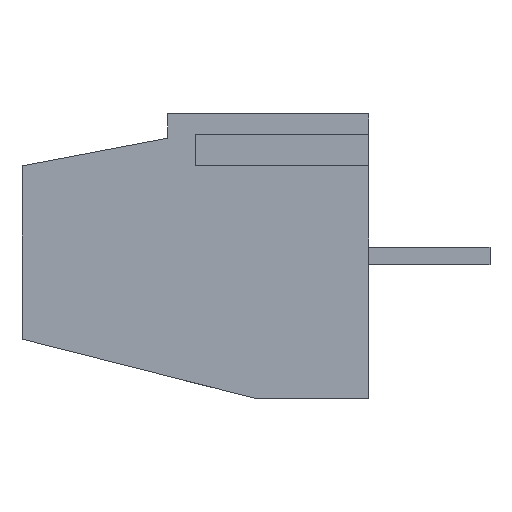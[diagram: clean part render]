
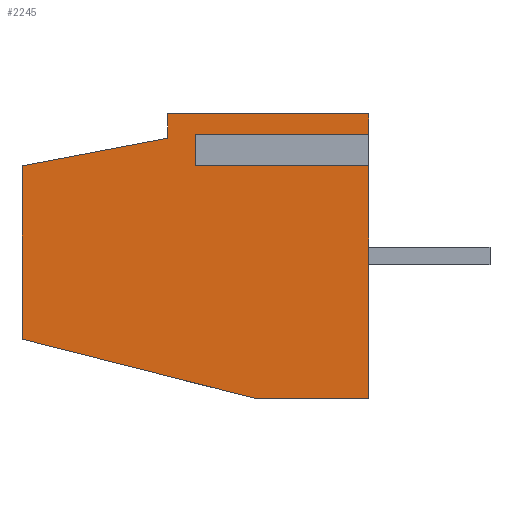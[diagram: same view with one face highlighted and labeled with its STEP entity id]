
A CAD part, left-side view. The second image highlights one B-rep face of the part: STEP entity #2245.
In plain terms, the highlighted planar face has unit normal (-1, 0, 0).
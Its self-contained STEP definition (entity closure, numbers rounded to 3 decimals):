
#25 = EDGE_CURVE ( 'NONE', #1675, #912, #2807, .T. ) ;
#79 = VERTEX_POINT ( 'NONE', #4531 ) ;
#146 = VECTOR ( 'NONE', #2185, 1000. ) ;
#165 = AXIS2_PLACEMENT_3D ( 'NONE', #3384, #2246, #4577 ) ;
#184 = LINE ( 'NONE', #1041, #4806 ) ;
#242 = CARTESIAN_POINT ( 'NONE',  ( -12.5, 5.8, 3.4 ) ) ;
#404 = ORIENTED_EDGE ( 'NONE', *, *, #1332, .F. ) ;
#478 = DIRECTION ( 'NONE',  ( 0., 0., -1. ) ) ;
#482 = VECTOR ( 'NONE', #3685, 1000. ) ;
#560 = LINE ( 'NONE', #242, #3721 ) ;
#630 = CARTESIAN_POINT ( 'NONE',  ( -12.5, 5.8, 4.1 ) ) ;
#635 = DIRECTION ( 'NONE',  ( 0., 1., 0. ) ) ;
#655 = CARTESIAN_POINT ( 'NONE',  ( -12.5, 0., -4.1 ) ) ;
#685 = ORIENTED_EDGE ( 'NONE', *, *, #2791, .T. ) ;
#702 = EDGE_CURVE ( 'NONE', #1218, #79, #4548, .T. ) ;
#753 = CARTESIAN_POINT ( 'NONE',  ( -12.5, 5., 3.3 ) ) ;
#796 = CARTESIAN_POINT ( 'NONE',  ( -12.5, 5., 2.8 ) ) ;
#832 = VERTEX_POINT ( 'NONE', #655 ) ;
#912 = VERTEX_POINT ( 'NONE', #753 ) ;
#953 = LINE ( 'NONE', #1783, #1052 ) ;
#983 = CARTESIAN_POINT ( 'NONE',  ( -12.5, 5.8, 3.4 ) ) ;
#1041 = CARTESIAN_POINT ( 'NONE',  ( -12.5, 0., -4.1 ) ) ;
#1052 = VECTOR ( 'NONE', #4868, 1000. ) ;
#1072 = ORIENTED_EDGE ( 'NONE', *, *, #2476, .F. ) ;
#1203 = CARTESIAN_POINT ( 'NONE',  ( -12.5, 0., 2.8 ) ) ;
#1207 = EDGE_CURVE ( 'NONE', #1280, #3302, #953, .T. ) ;
#1218 = VERTEX_POINT ( 'NONE', #4068 ) ;
#1280 = VERTEX_POINT ( 'NONE', #630 ) ;
#1332 = EDGE_CURVE ( 'NONE', #4086, #912, #1376, .T. ) ;
#1376 = LINE ( 'NONE', #2688, #4599 ) ;
#1425 = CARTESIAN_POINT ( 'NONE',  ( -12.5, 5., 2.8 ) ) ;
#1426 = VECTOR ( 'NONE', #2554, 1000. ) ;
#1467 = DIRECTION ( 'NONE',  ( 0., 0., 1. ) ) ;
#1500 = VECTOR ( 'NONE', #1755, 1000. ) ;
#1675 = VERTEX_POINT ( 'NONE', #1425 ) ;
#1755 = DIRECTION ( 'NONE',  ( 0., 0., 1. ) ) ;
#1782 = PLANE ( 'NONE',  #165 ) ;
#1783 = CARTESIAN_POINT ( 'NONE',  ( -12.5, 5.8, 4.1 ) ) ;
#1999 = VECTOR ( 'NONE', #2242, 1000. ) ;
#2022 = ORIENTED_EDGE ( 'NONE', *, *, #4436, .F. ) ;
#2025 = ORIENTED_EDGE ( 'NONE', *, *, #1207, .F. ) ;
#2061 = LINE ( 'NONE', #4132, #482 ) ;
#2185 = DIRECTION ( 'NONE',  ( 0., 0.969, 0.246 ) ) ;
#2242 = DIRECTION ( 'NONE',  ( 0., 0., 1. ) ) ;
#2245 = ADVANCED_FACE ( 'NONE', ( #4264 ), #1782, .F. ) ;
#2246 = DIRECTION ( 'NONE',  ( 1., 0., 0. ) ) ;
#2305 = DIRECTION ( 'NONE',  ( 0., -0.982, 0.187 ) ) ;
#2306 = ORIENTED_EDGE ( 'NONE', *, *, #2448, .F. ) ;
#2448 = EDGE_CURVE ( 'NONE', #3406, #1218, #3290, .T. ) ;
#2476 = EDGE_CURVE ( 'NONE', #3302, #4086, #3312, .T. ) ;
#2500 = ORIENTED_EDGE ( 'NONE', *, *, #25, .T. ) ;
#2554 = DIRECTION ( 'NONE',  ( 0., 0., -1. ) ) ;
#2688 = CARTESIAN_POINT ( 'NONE',  ( -12.5, 0., 3.3 ) ) ;
#2700 = CARTESIAN_POINT ( 'NONE',  ( -12.5, 10., 2.6 ) ) ;
#2763 = ORIENTED_EDGE ( 'NONE', *, *, #3635, .F. ) ;
#2791 = EDGE_CURVE ( 'NONE', #4959, #1675, #2061, .T. ) ;
#2807 = LINE ( 'NONE', #796, #1999 ) ;
#2885 = CARTESIAN_POINT ( 'NONE',  ( -12.5, 0., 4.1 ) ) ;
#2924 = EDGE_CURVE ( 'NONE', #832, #3406, #184, .T. ) ;
#2980 = ORIENTED_EDGE ( 'NONE', *, *, #4365, .F. ) ;
#3068 = LINE ( 'NONE', #2700, #4898 ) ;
#3290 = LINE ( 'NONE', #3802, #146 ) ;
#3302 = VERTEX_POINT ( 'NONE', #4164 ) ;
#3312 = LINE ( 'NONE', #2885, #1426 ) ;
#3384 = CARTESIAN_POINT ( 'NONE',  ( -12.5, 5., 4.1 ) ) ;
#3406 = VERTEX_POINT ( 'NONE', #3452 ) ;
#3452 = CARTESIAN_POINT ( 'NONE',  ( -12.5, 3.3, -4.1 ) ) ;
#3503 = EDGE_LOOP ( 'NONE', ( #685, #2500, #404, #1072, #2025, #2022, #2763, #4774, #2306, #5137, #2980 ) ) ;
#3635 = EDGE_CURVE ( 'NONE', #79, #3831, #3068, .T. ) ;
#3679 = CARTESIAN_POINT ( 'NONE',  ( -12.5, 10., -2.4 ) ) ;
#3685 = DIRECTION ( 'NONE',  ( 0., 1., 0. ) ) ;
#3721 = VECTOR ( 'NONE', #1467, 1000. ) ;
#3802 = CARTESIAN_POINT ( 'NONE',  ( -12.5, 3.3, -4.1 ) ) ;
#3831 = VERTEX_POINT ( 'NONE', #983 ) ;
#4057 = CARTESIAN_POINT ( 'NONE',  ( -12.5, 0., 2.8 ) ) ;
#4068 = CARTESIAN_POINT ( 'NONE',  ( -12.5, 10., -2.4 ) ) ;
#4086 = VERTEX_POINT ( 'NONE', #4786 ) ;
#4109 = LINE ( 'NONE', #4057, #4659 ) ;
#4132 = CARTESIAN_POINT ( 'NONE',  ( -12.5, 0., 2.8 ) ) ;
#4164 = CARTESIAN_POINT ( 'NONE',  ( -12.5, 0., 4.1 ) ) ;
#4264 = FACE_OUTER_BOUND ( 'NONE', #3503, .T. ) ;
#4365 = EDGE_CURVE ( 'NONE', #4959, #832, #4109, .T. ) ;
#4436 = EDGE_CURVE ( 'NONE', #3831, #1280, #560, .T. ) ;
#4531 = CARTESIAN_POINT ( 'NONE',  ( -12.5, 10., 2.6 ) ) ;
#4548 = LINE ( 'NONE', #3679, #1500 ) ;
#4577 = DIRECTION ( 'NONE',  ( 0., 1., 0. ) ) ;
#4599 = VECTOR ( 'NONE', #4610, 1000. ) ;
#4610 = DIRECTION ( 'NONE',  ( 0., 1., 0. ) ) ;
#4659 = VECTOR ( 'NONE', #478, 1000. ) ;
#4774 = ORIENTED_EDGE ( 'NONE', *, *, #702, .F. ) ;
#4786 = CARTESIAN_POINT ( 'NONE',  ( -12.5, 0., 3.3 ) ) ;
#4806 = VECTOR ( 'NONE', #635, 1000. ) ;
#4868 = DIRECTION ( 'NONE',  ( 0., -1., 0. ) ) ;
#4898 = VECTOR ( 'NONE', #2305, 1000. ) ;
#4959 = VERTEX_POINT ( 'NONE', #1203 ) ;
#5137 = ORIENTED_EDGE ( 'NONE', *, *, #2924, .F. ) ;
